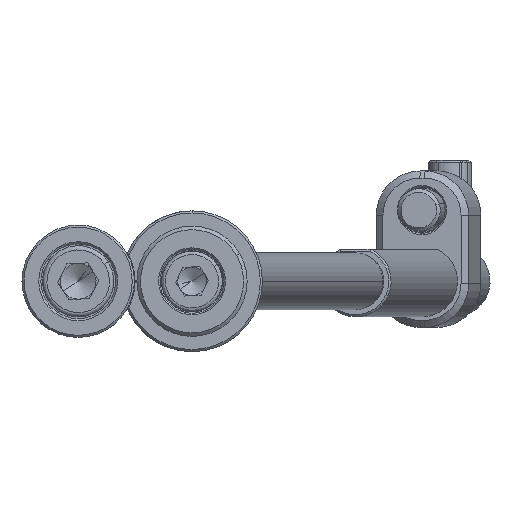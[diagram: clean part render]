
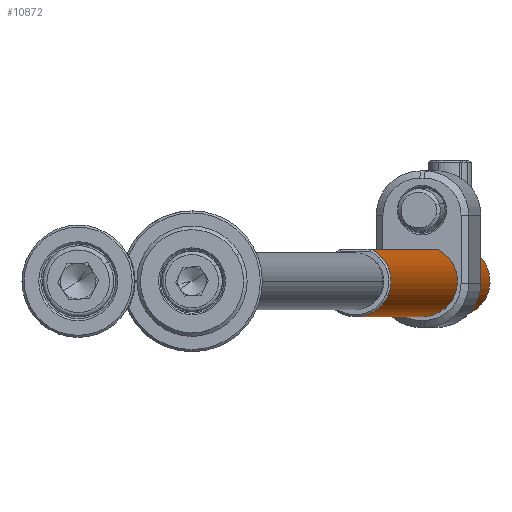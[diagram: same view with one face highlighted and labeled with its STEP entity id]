
A CAD part, front view. The second image highlights one B-rep face of the part: STEP entity #10872.
In plain terms, the highlighted cylindrical face has radius 5 mm (diameter 10 mm), a partial arc.
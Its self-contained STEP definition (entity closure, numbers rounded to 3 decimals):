
#159 = EDGE_CURVE ( 'NONE', #9190, #6443, #2858, .T. ) ;
#266 = CARTESIAN_POINT ( 'NONE',  ( 4.203, -2.709, 11.303 ) ) ;
#485 = CARTESIAN_POINT ( 'NONE',  ( 4.068, -2.908, 9.236 ) ) ;
#512 = EDGE_CURVE ( 'NONE', #11608, #2082, #4851, .T. ) ;
#820 = EDGE_CURVE ( 'NONE', #12386, #2484, #9962, .T. ) ;
#1034 = CARTESIAN_POINT ( 'NONE',  ( 4.5, -2.179, 199.7 ) ) ;
#1464 = LINE ( 'NONE', #3604, #11743 ) ;
#1531 = ORIENTED_EDGE ( 'NONE', *, *, #159, .T. ) ;
#1592 = LINE ( 'NONE', #10523, #12770 ) ;
#1708 = CARTESIAN_POINT ( 'NONE',  ( 4.5, -2.179, 200. ) ) ;
#1984 = CARTESIAN_POINT ( 'NONE',  ( -5., 0., 199.7 ) ) ;
#2082 = VERTEX_POINT ( 'NONE', #12849 ) ;
#2398 = CARTESIAN_POINT ( 'NONE',  ( 4.014, -2.982, 9.617 ) ) ;
#2484 = VERTEX_POINT ( 'NONE', #1984 ) ;
#2858 = CIRCLE ( 'NONE', #10235, 5. ) ;
#3045 = DIRECTION ( 'NONE',  ( 0., 0., -1. ) ) ;
#3150 = CARTESIAN_POINT ( 'NONE',  ( -5., 0., 0.3 ) ) ;
#3445 = ORIENTED_EDGE ( 'NONE', *, *, #820, .T. ) ;
#3553 = CARTESIAN_POINT ( 'NONE',  ( 4.376, -2.422, 8.22 ) ) ;
#3604 = CARTESIAN_POINT ( 'NONE',  ( 4.5, -2.179, 200. ) ) ;
#3616 = CARTESIAN_POINT ( 'NONE',  ( 4.069, -2.906, 10.771 ) ) ;
#3739 = AXIS2_PLACEMENT_3D ( 'NONE', #7289, #13044, #9757 ) ;
#4407 = CARTESIAN_POINT ( 'NONE',  ( 4.5, -2.179, 12.062 ) ) ;
#4851 = B_SPLINE_CURVE_WITH_KNOTS ( 'NONE', 3,
 ( #4407, #5546, #10110, #12280, #266, #13483, #3616, #13327, #11416, #6918, #2398, #485, #9029, #11343, #6783, #3553, #6846, #11267 ),
 .UNSPECIFIED., .F., .F.,
 ( 4, 2, 2, 2, 2, 2, 2, 2, 4 ),
 ( 0., 0.001, 0.001, 0.002, 0.002, 0.003, 0.003, 0.004, 0.005 ),
 .UNSPECIFIED. ) ;
#5205 = CYLINDRICAL_SURFACE ( 'NONE', #12013, 5. ) ;
#5546 = CARTESIAN_POINT ( 'NONE',  ( 4.438, -2.307, 11.926 ) ) ;
#6207 = CARTESIAN_POINT ( 'NONE',  ( 0., 0., 200. ) ) ;
#6235 = EDGE_LOOP ( 'NONE', ( #3445, #12614, #1531, #6863, #13812, #11485 ) ) ;
#6443 = VERTEX_POINT ( 'NONE', #10461 ) ;
#6444 = EDGE_CURVE ( 'NONE', #2484, #9190, #1592, .T. ) ;
#6783 = CARTESIAN_POINT ( 'NONE',  ( 4.258, -2.623, 8.532 ) ) ;
#6846 = CARTESIAN_POINT ( 'NONE',  ( 4.438, -2.308, 8.074 ) ) ;
#6863 = ORIENTED_EDGE ( 'NONE', *, *, #8291, .F. ) ;
#6918 = CARTESIAN_POINT ( 'NONE',  ( 4., -3., 9.809 ) ) ;
#7289 = CARTESIAN_POINT ( 'NONE',  ( 0., 0., 199.7 ) ) ;
#7440 = DIRECTION ( 'NONE',  ( -1., 0., 0. ) ) ;
#8291 = EDGE_CURVE ( 'NONE', #2082, #6443, #1464, .T. ) ;
#8513 = FACE_OUTER_BOUND ( 'NONE', #6235, .T. ) ;
#9029 = CARTESIAN_POINT ( 'NONE',  ( 4.107, -2.852, 9.051 ) ) ;
#9152 = DIRECTION ( 'NONE',  ( 0., 0., -1. ) ) ;
#9190 = VERTEX_POINT ( 'NONE', #3150 ) ;
#9757 = DIRECTION ( 'NONE',  ( 1., 0., 0. ) ) ;
#9962 = CIRCLE ( 'NONE', #3739, 5. ) ;
#10110 = CARTESIAN_POINT ( 'NONE',  ( 4.376, -2.421, 11.781 ) ) ;
#10235 = AXIS2_PLACEMENT_3D ( 'NONE', #11369, #12298, #10275 ) ;
#10275 = DIRECTION ( 'NONE',  ( 1., 0., 0. ) ) ;
#10311 = DIRECTION ( 'NONE',  ( 0., 0., -1. ) ) ;
#10461 = CARTESIAN_POINT ( 'NONE',  ( 4.5, -2.179, 0.3 ) ) ;
#10523 = CARTESIAN_POINT ( 'NONE',  ( -5., 0., 200. ) ) ;
#10643 = VECTOR ( 'NONE', #12489, 1000. ) ;
#10872 = ADVANCED_FACE ( 'NONE', ( #8513 ), #5205, .T. ) ;
#11080 = EDGE_CURVE ( 'NONE', #12386, #11608, #11558, .T. ) ;
#11267 = CARTESIAN_POINT ( 'NONE',  ( 4.5, -2.179, 7.938 ) ) ;
#11343 = CARTESIAN_POINT ( 'NONE',  ( 4.202, -2.711, 8.701 ) ) ;
#11369 = CARTESIAN_POINT ( 'NONE',  ( 0., 0., 0.3 ) ) ;
#11416 = CARTESIAN_POINT ( 'NONE',  ( 4., -3., 10.198 ) ) ;
#11485 = ORIENTED_EDGE ( 'NONE', *, *, #11080, .F. ) ;
#11558 = LINE ( 'NONE', #1708, #10643 ) ;
#11608 = VERTEX_POINT ( 'NONE', #12716 ) ;
#11743 = VECTOR ( 'NONE', #9152, 1000. ) ;
#12013 = AXIS2_PLACEMENT_3D ( 'NONE', #6207, #3045, #7440 ) ;
#12280 = CARTESIAN_POINT ( 'NONE',  ( 4.259, -2.621, 11.47 ) ) ;
#12298 = DIRECTION ( 'NONE',  ( 0., 0., 1. ) ) ;
#12386 = VERTEX_POINT ( 'NONE', #1034 ) ;
#12489 = DIRECTION ( 'NONE',  ( 0., 0., -1. ) ) ;
#12614 = ORIENTED_EDGE ( 'NONE', *, *, #6444, .T. ) ;
#12716 = CARTESIAN_POINT ( 'NONE',  ( 4.5, -2.179, 12.062 ) ) ;
#12770 = VECTOR ( 'NONE', #10311, 1000. ) ;
#12849 = CARTESIAN_POINT ( 'NONE',  ( 4.5, -2.179, 7.938 ) ) ;
#13044 = DIRECTION ( 'NONE',  ( 0., 0., -1. ) ) ;
#13327 = CARTESIAN_POINT ( 'NONE',  ( 4.015, -2.98, 10.396 ) ) ;
#13483 = CARTESIAN_POINT ( 'NONE',  ( 4.108, -2.851, 10.952 ) ) ;
#13812 = ORIENTED_EDGE ( 'NONE', *, *, #512, .F. ) ;
